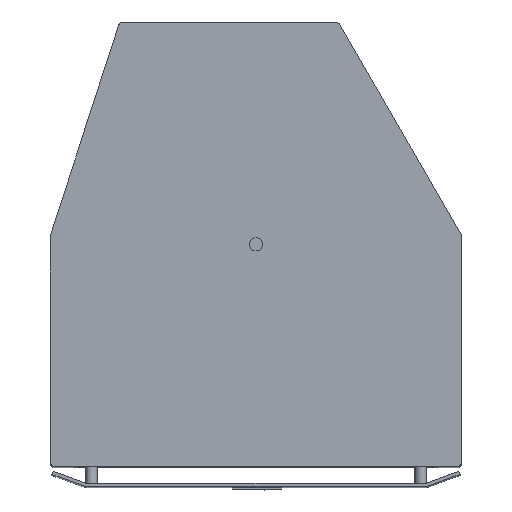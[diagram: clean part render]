
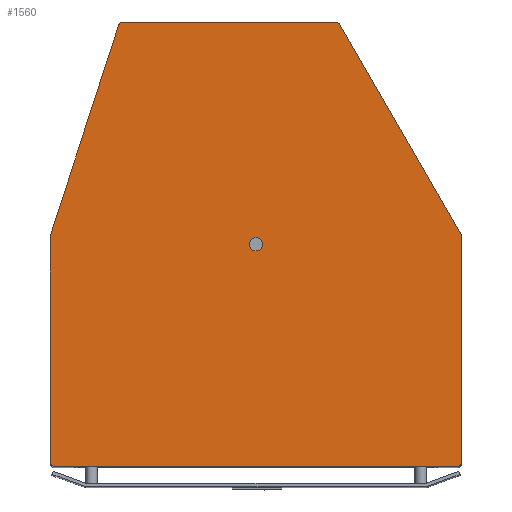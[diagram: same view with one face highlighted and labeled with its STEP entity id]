
A CAD part, top view. The second image highlights one B-rep face of the part: STEP entity #1560.
In plain terms, the highlighted planar face has unit normal (0, 0, 1).
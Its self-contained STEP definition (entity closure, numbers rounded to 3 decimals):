
#42=FACE_BOUND('',#341,.T.);
#72=CIRCLE('',#1655,4.);
#104=CIRCLE('',#1718,3.);
#106=CIRCLE('',#1722,3.);
#108=CIRCLE('',#1726,3.);
#110=CIRCLE('',#1730,3.);
#112=CIRCLE('',#1734,3.);
#114=CIRCLE('',#1738,3.);
#233=FACE_OUTER_BOUND('',#340,.T.);
#340=EDGE_LOOP('',(#1309,#1310,#1311,#1312,#1313,#1314,#1315,#1316,#1317,
#1318,#1319,#1320));
#341=EDGE_LOOP('',(#1321));
#448=LINE('',#2689,#576);
#453=LINE('',#2704,#581);
#457=LINE('',#2716,#585);
#461=LINE('',#2728,#589);
#465=LINE('',#2740,#593);
#469=LINE('',#2752,#597);
#576=VECTOR('',#2110,10.);
#581=VECTOR('',#2125,10.);
#585=VECTOR('',#2137,10.);
#589=VECTOR('',#2149,10.);
#593=VECTOR('',#2161,10.);
#597=VECTOR('',#2173,10.);
#668=VERTEX_POINT('',#2402);
#708=VERTEX_POINT('',#2687);
#709=VERTEX_POINT('',#2688);
#712=VERTEX_POINT('',#2697);
#714=VERTEX_POINT('',#2703);
#716=VERTEX_POINT('',#2709);
#718=VERTEX_POINT('',#2715);
#720=VERTEX_POINT('',#2721);
#722=VERTEX_POINT('',#2727);
#724=VERTEX_POINT('',#2733);
#726=VERTEX_POINT('',#2739);
#728=VERTEX_POINT('',#2745);
#730=VERTEX_POINT('',#2751);
#837=EDGE_CURVE('',#668,#668,#72,.T.);
#897=EDGE_CURVE('',#708,#709,#448,.T.);
#901=EDGE_CURVE('',#709,#712,#104,.T.);
#904=EDGE_CURVE('',#712,#714,#453,.T.);
#907=EDGE_CURVE('',#714,#716,#106,.T.);
#910=EDGE_CURVE('',#716,#718,#457,.T.);
#913=EDGE_CURVE('',#718,#720,#108,.T.);
#916=EDGE_CURVE('',#720,#722,#461,.T.);
#919=EDGE_CURVE('',#722,#724,#110,.T.);
#922=EDGE_CURVE('',#724,#726,#465,.T.);
#925=EDGE_CURVE('',#726,#728,#112,.T.);
#928=EDGE_CURVE('',#728,#730,#469,.T.);
#931=EDGE_CURVE('',#730,#708,#114,.T.);
#1309=ORIENTED_EDGE('',*,*,#931,.T.);
#1310=ORIENTED_EDGE('',*,*,#897,.T.);
#1311=ORIENTED_EDGE('',*,*,#901,.T.);
#1312=ORIENTED_EDGE('',*,*,#904,.T.);
#1313=ORIENTED_EDGE('',*,*,#907,.T.);
#1314=ORIENTED_EDGE('',*,*,#910,.T.);
#1315=ORIENTED_EDGE('',*,*,#913,.T.);
#1316=ORIENTED_EDGE('',*,*,#916,.T.);
#1317=ORIENTED_EDGE('',*,*,#919,.T.);
#1318=ORIENTED_EDGE('',*,*,#922,.T.);
#1319=ORIENTED_EDGE('',*,*,#925,.T.);
#1320=ORIENTED_EDGE('',*,*,#928,.T.);
#1321=ORIENTED_EDGE('',*,*,#837,.T.);
#1385=PLANE('',#1740);
#1560=ADVANCED_FACE('',(#233,#42),#1385,.T.);
#1655=AXIS2_PLACEMENT_3D('',#2403,#1961,#1962);
#1718=AXIS2_PLACEMENT_3D('',#2698,#2118,#2119);
#1722=AXIS2_PLACEMENT_3D('',#2710,#2130,#2131);
#1726=AXIS2_PLACEMENT_3D('',#2722,#2142,#2143);
#1730=AXIS2_PLACEMENT_3D('',#2734,#2154,#2155);
#1734=AXIS2_PLACEMENT_3D('',#2746,#2166,#2167);
#1738=AXIS2_PLACEMENT_3D('',#2757,#2178,#2179);
#1740=AXIS2_PLACEMENT_3D('',#2759,#2182,#2183);
#1961=DIRECTION('center_axis',(0.,0.,-1.));
#1962=DIRECTION('ref_axis',(1.,0.,0.));
#2110=DIRECTION('',(1.,0.,0.));
#2118=DIRECTION('center_axis',(0.,0.,1.));
#2119=DIRECTION('ref_axis',(0.,-1.,0.));
#2125=DIRECTION('',(0.,1.,0.));
#2130=DIRECTION('center_axis',(0.,0.,1.));
#2131=DIRECTION('ref_axis',(1.,0.,0.));
#2137=DIRECTION('',(-0.5,0.866,0.));
#2142=DIRECTION('center_axis',(0.,0.,1.));
#2143=DIRECTION('ref_axis',(0.866,0.5,0.));
#2149=DIRECTION('',(-1.,0.,0.));
#2154=DIRECTION('center_axis',(0.,0.,1.));
#2155=DIRECTION('ref_axis',(0.,1.,0.));
#2161=DIRECTION('',(-0.309,-0.951,0.));
#2166=DIRECTION('center_axis',(0.,0.,1.));
#2167=DIRECTION('ref_axis',(-0.951,0.309,0.));
#2173=DIRECTION('',(0.,-1.,0.));
#2178=DIRECTION('center_axis',(0.,0.,1.));
#2179=DIRECTION('ref_axis',(-1.,0.,0.));
#2182=DIRECTION('center_axis',(0.,0.,1.));
#2183=DIRECTION('ref_axis',(1.,0.,0.));
#2402=CARTESIAN_POINT('',(-4.,0.,0.));
#2403=CARTESIAN_POINT('Origin',(0.,0.,0.));
#2687=CARTESIAN_POINT('',(-122.,-135.,0.));
#2688=CARTESIAN_POINT('',(122.,-135.,0.));
#2689=CARTESIAN_POINT('',(-122.,-135.,0.));
#2697=CARTESIAN_POINT('',(125.,-132.,0.));
#2698=CARTESIAN_POINT('Origin',(122.,-132.,0.));
#2703=CARTESIAN_POINT('',(125.,4.196,0.));
#2704=CARTESIAN_POINT('',(125.,-132.,0.));
#2709=CARTESIAN_POINT('',(124.598,5.696,0.));
#2710=CARTESIAN_POINT('Origin',(122.,4.196,0.));
#2715=CARTESIAN_POINT('',(50.81,133.5,0.));
#2716=CARTESIAN_POINT('',(124.598,5.696,0.));
#2721=CARTESIAN_POINT('',(48.212,135.,0.));
#2722=CARTESIAN_POINT('Origin',(48.212,132.,0.));
#2727=CARTESIAN_POINT('',(-80.581,135.,0.));
#2728=CARTESIAN_POINT('',(48.212,135.,0.));
#2733=CARTESIAN_POINT('',(-83.434,132.927,0.));
#2734=CARTESIAN_POINT('Origin',(-80.581,132.,0.));
#2739=CARTESIAN_POINT('',(-124.853,5.452,0.));
#2740=CARTESIAN_POINT('',(-83.434,132.927,0.));
#2745=CARTESIAN_POINT('',(-125.,4.525,0.));
#2746=CARTESIAN_POINT('Origin',(-122.,4.525,0.));
#2751=CARTESIAN_POINT('',(-125.,-132.,0.));
#2752=CARTESIAN_POINT('',(-125.,4.525,0.));
#2757=CARTESIAN_POINT('Origin',(-122.,-132.,0.));
#2759=CARTESIAN_POINT('Origin',(0.,0.,0.));
